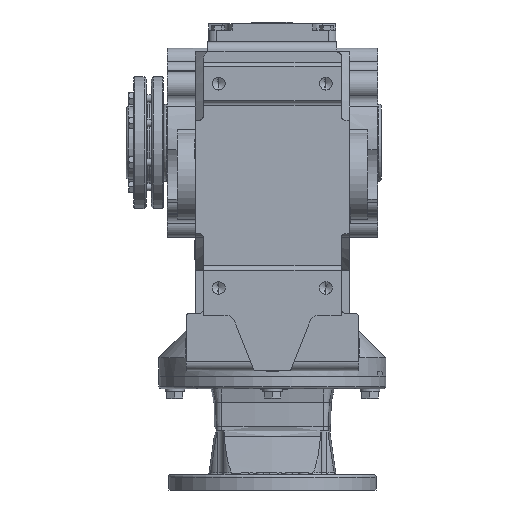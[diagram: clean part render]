
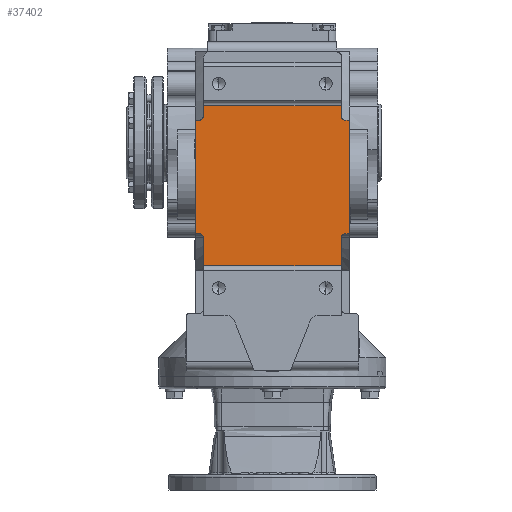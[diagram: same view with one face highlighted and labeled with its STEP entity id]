
A CAD part, front view. The second image highlights one B-rep face of the part: STEP entity #37402.
In plain terms, the highlighted planar face has unit normal (0, -1, 0).
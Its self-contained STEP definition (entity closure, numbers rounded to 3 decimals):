
#386 = VERTEX_POINT ( 'NONE', #10331 ) ;
#387 = VERTEX_POINT ( 'NONE', #10332 ) ;
#472 = VERTEX_POINT ( 'NONE', #3905 ) ;
#474 = VERTEX_POINT ( 'NONE', #3906 ) ;
#476 = VERTEX_POINT ( 'NONE', #3907 ) ;
#477 = VERTEX_POINT ( 'NONE', #3908 ) ;
#482 = VERTEX_POINT ( 'NONE', #3910 ) ;
#490 = VERTEX_POINT ( 'NONE', #3914 ) ;
#495 = VERTEX_POINT ( 'NONE', #3917 ) ;
#534 = VERTEX_POINT ( 'NONE', #3939 ) ;
#592 = VERTEX_POINT ( 'NONE', #3969 ) ;
#599 = VERTEX_POINT ( 'NONE', #3972 ) ;
#719 = VERTEX_POINT ( 'NONE', #4033 ) ;
#726 = VERTEX_POINT ( 'NONE', #4036 ) ;
#733 = VERTEX_POINT ( 'NONE', #4041 ) ;
#1868 = CARTESIAN_POINT ( 'NONE',  ( -76., -206., -135.346 ) ) ;
#3905 = CARTESIAN_POINT ( 'NONE',  ( -76., -206., 41. ) ) ;
#3906 = CARTESIAN_POINT ( 'NONE',  ( -76., -206., 29.651 ) ) ;
#3907 = CARTESIAN_POINT ( 'NONE',  ( 76., -206., 41. ) ) ;
#3908 = CARTESIAN_POINT ( 'NONE',  ( 81., -206., 24.651 ) ) ;
#3910 = CARTESIAN_POINT ( 'NONE',  ( -81., -206., 24.651 ) ) ;
#3914 = CARTESIAN_POINT ( 'NONE',  ( 76., -206., -105. ) ) ;
#3917 = CARTESIAN_POINT ( 'NONE',  ( 76., -206., 29.651 ) ) ;
#3939 = CARTESIAN_POINT ( 'NONE',  ( 81., -206., -100. ) ) ;
#3969 = CARTESIAN_POINT ( 'NONE',  ( -85., -206., 24.651 ) ) ;
#3972 = CARTESIAN_POINT ( 'NONE',  ( -85., -206., -100. ) ) ;
#4033 = CARTESIAN_POINT ( 'NONE',  ( -76., -206., -105. ) ) ;
#4036 = CARTESIAN_POINT ( 'NONE',  ( -81., -206., -100. ) ) ;
#4041 = CARTESIAN_POINT ( 'NONE',  ( 76., -206., -135.346 ) ) ;
#7677 = EDGE_LOOP ( 'NONE', ( #15996, #15997, #15998, #15999, #16000, #16001, #16002, #16003, #16004, #16005, #16006, #16007, #16008, #16009, #16010, #16011 ) ) ;
#9600 = CARTESIAN_POINT ( 'NONE',  ( 76., -206., -100. ) ) ;
#9601 = DIRECTION ( 'NONE',  ( 0., 0., -1. ) ) ;
#9893 = CARTESIAN_POINT ( 'NONE',  ( -112., -206., -135.346 ) ) ;
#9908 = DIRECTION ( 'NONE',  ( 1., 0., 0. ) ) ;
#9927 = CARTESIAN_POINT ( 'NONE',  ( -81., -206., -105. ) ) ;
#9928 = DIRECTION ( 'NONE',  ( 0., 1., 0. ) ) ;
#9929 = DIRECTION ( 'NONE',  ( 0., 0., -1. ) ) ;
#10331 = CARTESIAN_POINT ( 'NONE',  ( 85., -206., 24.651 ) ) ;
#10332 = CARTESIAN_POINT ( 'NONE',  ( 85., -206., -100. ) ) ;
#11042 = CARTESIAN_POINT ( 'NONE',  ( 81., -206., 29.651 ) ) ;
#11044 = DIRECTION ( 'NONE',  ( 0., 1., 0. ) ) ;
#11046 = DIRECTION ( 'NONE',  ( 0., 0., -1. ) ) ;
#11096 = CARTESIAN_POINT ( 'NONE',  ( 81., -206., -105. ) ) ;
#11098 = DIRECTION ( 'NONE',  ( 0., 1., 0. ) ) ;
#11100 = DIRECTION ( 'NONE',  ( 0., 0., -1. ) ) ;
#11154 = CARTESIAN_POINT ( 'NONE',  ( -76., -206., 46. ) ) ;
#11158 = CARTESIAN_POINT ( 'NONE',  ( -81., -206., 29.651 ) ) ;
#11160 = DIRECTION ( 'NONE',  ( 0., 1., 0. ) ) ;
#11162 = DIRECTION ( 'NONE',  ( 0., 0., -1. ) ) ;
#11174 = DIRECTION ( 'NONE',  ( 0., 0., 1. ) ) ;
#11185 = CARTESIAN_POINT ( 'NONE',  ( -112., -206., 41. ) ) ;
#11194 = DIRECTION ( 'NONE',  ( -1., 0., 0. ) ) ;
#11207 = DIRECTION ( 'NONE',  ( 0., 0., -1. ) ) ;
#11217 = CARTESIAN_POINT ( 'NONE',  ( 76., -206., 46. ) ) ;
#11718 = EDGE_CURVE ( 'NONE', #477, #495, #13330, .T. ) ;
#11726 = EDGE_CURVE ( 'NONE', #490, #534, #13333, .T. ) ;
#11739 = EDGE_CURVE ( 'NONE', #474, #482, #13336, .T. ) ;
#11748 = EDGE_CURVE ( 'NONE', #474, #472, #13343, .T. ) ;
#11756 = EDGE_CURVE ( 'NONE', #476, #472, #13351, .T. ) ;
#11765 = EDGE_CURVE ( 'NONE', #476, #495, #13358, .T. ) ;
#11994 = EDGE_CURVE ( 'NONE', #44685, #733, #13483, .T. ) ;
#12005 = EDGE_CURVE ( 'NONE', #726, #719, #13491, .T. ) ;
#12109 = EDGE_CURVE ( 'NONE', #490, #733, #13580, .T. ) ;
#12152 = EDGE_CURVE ( 'NONE', #534, #387, #13623, .T. ) ;
#12155 = EDGE_CURVE ( 'NONE', #477, #386, #13630, .T. ) ;
#13330 = CIRCLE ( 'NONE', #26807, 5. ) ;
#13333 = CIRCLE ( 'NONE', #26808, 5. ) ;
#13336 = CIRCLE ( 'NONE', #26809, 5. ) ;
#13343 = LINE ( 'NONE', #11154, #13350 ) ;
#13350 = VECTOR ( 'NONE', #11174, 1000. ) ;
#13351 = LINE ( 'NONE', #11185, #13357 ) ;
#13357 = VECTOR ( 'NONE', #11194, 1000. ) ;
#13358 = LINE ( 'NONE', #11217, #13362 ) ;
#13362 = VECTOR ( 'NONE', #11207, 1000. ) ;
#13483 = LINE ( 'NONE', #9893, #13485 ) ;
#13485 = VECTOR ( 'NONE', #9908, 1000. ) ;
#13491 = CIRCLE ( 'NONE', #26858, 5. ) ;
#13580 = LINE ( 'NONE', #9600, #13583 ) ;
#13583 = VECTOR ( 'NONE', #9601, 1000. ) ;
#13623 = LINE ( 'NONE', #27337, #13627 ) ;
#13627 = VECTOR ( 'NONE', #27336, 1000. ) ;
#13630 = LINE ( 'NONE', #27385, #13633 ) ;
#13633 = VECTOR ( 'NONE', #27388, 1000. ) ;
#15996 = ORIENTED_EDGE ( 'NONE', *, *, #11765, .F. ) ;
#15997 = ORIENTED_EDGE ( 'NONE', *, *, #11756, .T. ) ;
#15998 = ORIENTED_EDGE ( 'NONE', *, *, #11748, .F. ) ;
#15999 = ORIENTED_EDGE ( 'NONE', *, *, #11739, .T. ) ;
#16000 = ORIENTED_EDGE ( 'NONE', *, *, #38045, .F. ) ;
#16001 = ORIENTED_EDGE ( 'NONE', *, *, #38051, .F. ) ;
#16002 = ORIENTED_EDGE ( 'NONE', *, *, #38054, .F. ) ;
#16003 = ORIENTED_EDGE ( 'NONE', *, *, #12005, .T. ) ;
#16004 = ORIENTED_EDGE ( 'NONE', *, *, #38058, .F. ) ;
#16005 = ORIENTED_EDGE ( 'NONE', *, *, #11994, .T. ) ;
#16006 = ORIENTED_EDGE ( 'NONE', *, *, #12109, .F. ) ;
#16007 = ORIENTED_EDGE ( 'NONE', *, *, #11726, .T. ) ;
#16008 = ORIENTED_EDGE ( 'NONE', *, *, #12152, .T. ) ;
#16009 = ORIENTED_EDGE ( 'NONE', *, *, #38060, .F. ) ;
#16010 = ORIENTED_EDGE ( 'NONE', *, *, #12155, .F. ) ;
#16011 = ORIENTED_EDGE ( 'NONE', *, *, #11718, .T. ) ;
#21702 = CARTESIAN_POINT ( 'NONE',  ( -85., -206., 7. ) ) ;
#21711 = DIRECTION ( 'NONE',  ( 1., 0., 0. ) ) ;
#21716 = CARTESIAN_POINT ( 'NONE',  ( -76., -206., 24.651 ) ) ;
#21726 = CARTESIAN_POINT ( 'NONE',  ( -76., -206., -100. ) ) ;
#21731 = CARTESIAN_POINT ( 'NONE',  ( -76., -206., -103. ) ) ;
#21733 = DIRECTION ( 'NONE',  ( 0., 0., 1. ) ) ;
#21736 = CARTESIAN_POINT ( 'NONE',  ( 85., -206., 7. ) ) ;
#21739 = DIRECTION ( 'NONE',  ( -1., 0., 0. ) ) ;
#21744 = DIRECTION ( 'NONE',  ( 0., 0., 1. ) ) ;
#21751 = DIRECTION ( 'NONE',  ( 0., 0., -1. ) ) ;
#25204 = LINE ( 'NONE', #21716, #25208 ) ;
#25207 = LINE ( 'NONE', #21702, #25212 ) ;
#25208 = VECTOR ( 'NONE', #21711, 1000. ) ;
#25209 = LINE ( 'NONE', #21726, #25214 ) ;
#25211 = LINE ( 'NONE', #21731, #25215 ) ;
#25212 = VECTOR ( 'NONE', #21733, 1000. ) ;
#25213 = LINE ( 'NONE', #21736, #25217 ) ;
#25214 = VECTOR ( 'NONE', #21739, 1000. ) ;
#25215 = VECTOR ( 'NONE', #21744, 1000. ) ;
#25217 = VECTOR ( 'NONE', #21751, 1000. ) ;
#26807 = AXIS2_PLACEMENT_3D ( 'NONE', #11042, #11044, #11046 ) ;
#26808 = AXIS2_PLACEMENT_3D ( 'NONE', #11096, #11098, #11100 ) ;
#26809 = AXIS2_PLACEMENT_3D ( 'NONE', #11158, #11160, #11162 ) ;
#26858 = AXIS2_PLACEMENT_3D ( 'NONE', #9927, #9928, #9929 ) ;
#27336 = DIRECTION ( 'NONE',  ( 1., 0., 0. ) ) ;
#27337 = CARTESIAN_POINT ( 'NONE',  ( 76., -206., -100. ) ) ;
#27385 = CARTESIAN_POINT ( 'NONE',  ( 85., -206., 24.651 ) ) ;
#27388 = DIRECTION ( 'NONE',  ( 1., 0., 0. ) ) ;
#32516 = FACE_OUTER_BOUND ( 'NONE', #7677, .T. ) ;
#36106 = AXIS2_PLACEMENT_3D ( 'NONE', #64025, #64037, #64039 ) ;
#37402 = ADVANCED_FACE ( 'NONE', ( #32516 ), #64028, .T. ) ;
#38045 = EDGE_CURVE ( 'NONE', #592, #482, #25204, .T. ) ;
#38051 = EDGE_CURVE ( 'NONE', #599, #592, #25207, .T. ) ;
#38054 = EDGE_CURVE ( 'NONE', #726, #599, #25209, .T. ) ;
#38058 = EDGE_CURVE ( 'NONE', #44685, #719, #25211, .T. ) ;
#38060 = EDGE_CURVE ( 'NONE', #386, #387, #25213, .T. ) ;
#44685 = VERTEX_POINT ( 'NONE', #1868 ) ;
#64025 = CARTESIAN_POINT ( 'NONE',  ( -112., -206., 7. ) ) ;
#64028 = PLANE ( 'NONE',  #36106 ) ;
#64037 = DIRECTION ( 'NONE',  ( 0., -1., 0. ) ) ;
#64039 = DIRECTION ( 'NONE',  ( 0., 0., -1. ) ) ;
